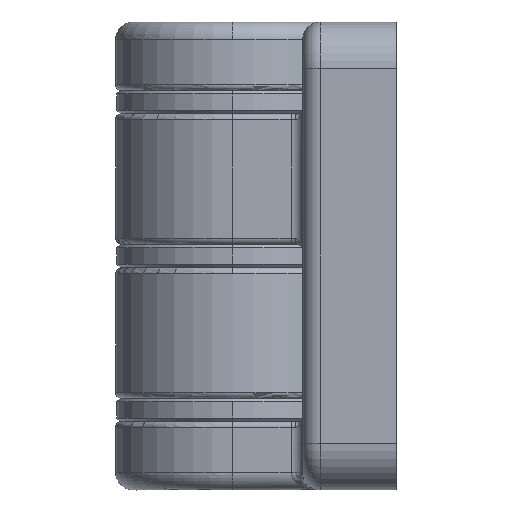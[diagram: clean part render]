
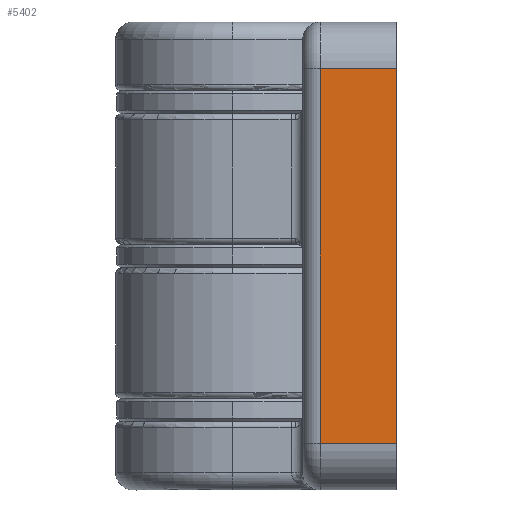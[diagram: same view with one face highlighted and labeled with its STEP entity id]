
A CAD part, left-side view. The second image highlights one B-rep face of the part: STEP entity #5402.
In plain terms, the highlighted planar face has unit normal (-1, 0, 0).
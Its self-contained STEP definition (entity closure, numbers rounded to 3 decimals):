
#465 = DIRECTION ( 'NONE',  ( 0., 1., 0. ) ) ;
#776 = VERTEX_POINT ( 'NONE', #6877 ) ;
#930 = DIRECTION ( 'NONE',  ( 0., 0., -1. ) ) ;
#1394 = DIRECTION ( 'NONE',  ( 0., 1., 0. ) ) ;
#1423 = CARTESIAN_POINT ( 'NONE',  ( -29.794, -7.117, -36.621 ) ) ;
#2091 = VERTEX_POINT ( 'NONE', #7110 ) ;
#2194 = AXIS2_PLACEMENT_3D ( 'NONE', #8885, #9053, #4560 ) ;
#2253 = VECTOR ( 'NONE', #465, 1000. ) ;
#2937 = CARTESIAN_POINT ( 'NONE',  ( -29.794, -5.617, -36.621 ) ) ;
#3771 = VECTOR ( 'NONE', #1394, 1000. ) ;
#4117 = LINE ( 'NONE', #7532, #8898 ) ;
#4140 = CARTESIAN_POINT ( 'NONE',  ( -29.794, -7.117, -4.621 ) ) ;
#4240 = VERTEX_POINT ( 'NONE', #4140 ) ;
#4560 = DIRECTION ( 'NONE',  ( 0., 0., 1. ) ) ;
#5209 = DIRECTION ( 'NONE',  ( 0., 0., -1. ) ) ;
#5402 = ADVANCED_FACE ( 'NONE', ( #5956 ), #8720, .T. ) ;
#5408 = ORIENTED_EDGE ( 'NONE', *, *, #7777, .T. ) ;
#5818 = EDGE_CURVE ( 'NONE', #2091, #6415, #6413, .T. ) ;
#5956 = FACE_OUTER_BOUND ( 'NONE', #6152, .T. ) ;
#6091 = LINE ( 'NONE', #8010, #6300 ) ;
#6152 = EDGE_LOOP ( 'NONE', ( #7753, #5408, #8251, #9043 ) ) ;
#6300 = VECTOR ( 'NONE', #5209, 1000. ) ;
#6413 = LINE ( 'NONE', #2937, #2253 ) ;
#6415 = VERTEX_POINT ( 'NONE', #1423 ) ;
#6429 = LINE ( 'NONE', #7111, #3771 ) ;
#6877 = CARTESIAN_POINT ( 'NONE',  ( -29.794, -13.617, -4.621 ) ) ;
#7110 = CARTESIAN_POINT ( 'NONE',  ( -29.794, -13.617, -36.621 ) ) ;
#7111 = CARTESIAN_POINT ( 'NONE',  ( -29.794, -5.617, -4.621 ) ) ;
#7532 = CARTESIAN_POINT ( 'NONE',  ( -29.794, -7.117, -40.621 ) ) ;
#7753 = ORIENTED_EDGE ( 'NONE', *, *, #8007, .T. ) ;
#7777 = EDGE_CURVE ( 'NONE', #4240, #6415, #4117, .T. ) ;
#8007 = EDGE_CURVE ( 'NONE', #776, #4240, #6429, .T. ) ;
#8010 = CARTESIAN_POINT ( 'NONE',  ( -29.794, -13.617, -40.621 ) ) ;
#8199 = EDGE_CURVE ( 'NONE', #776, #2091, #6091, .T. ) ;
#8251 = ORIENTED_EDGE ( 'NONE', *, *, #5818, .F. ) ;
#8720 = PLANE ( 'NONE',  #2194 ) ;
#8885 = CARTESIAN_POINT ( 'NONE',  ( -29.794, -5.617, -40.621 ) ) ;
#8898 = VECTOR ( 'NONE', #930, 1000. ) ;
#9043 = ORIENTED_EDGE ( 'NONE', *, *, #8199, .F. ) ;
#9053 = DIRECTION ( 'NONE',  ( -1., 0., 0. ) ) ;
